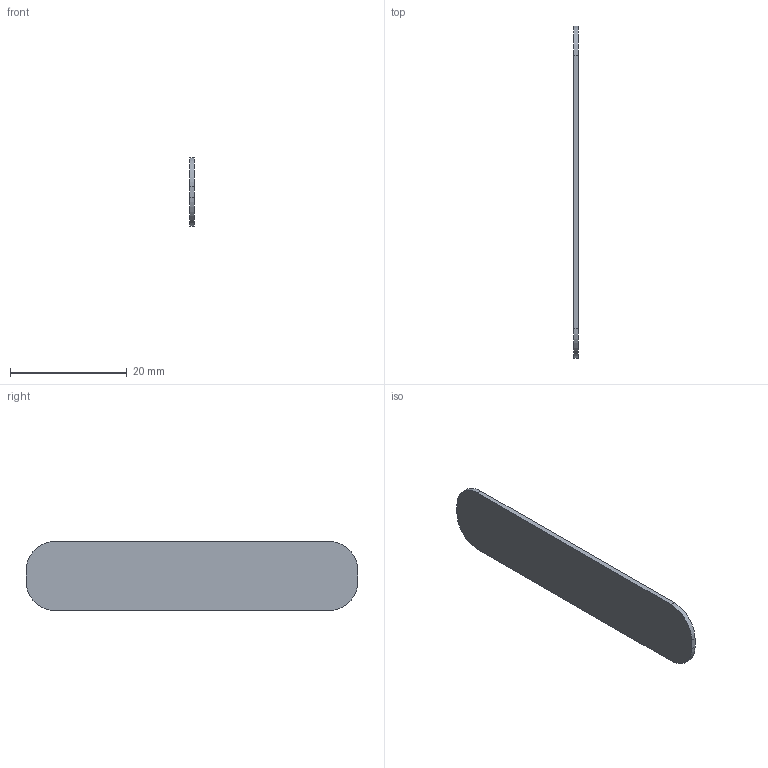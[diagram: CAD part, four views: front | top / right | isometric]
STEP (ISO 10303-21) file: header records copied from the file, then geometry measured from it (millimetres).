
FILE_DESCRIPTION(('Open CASCADE Model'),'2;1');
FILE_NAME('Open CASCADE Shape Model','2026-09-04T20:18:28',('Author'),( 'Open CASCADE'),'Open CASCADE STEP processor 7.7','Open CASCADE 7.7' ,'Unknown');
FILE_SCHEMA(('AUTOMOTIVE_DESIGN { 1 0 10303 214 1 1 1 1 }'));
Length unit declared in the file: millimetre
Products named in the file (1): Open CASCADE STEP translator 7.7 10
Bounding box: 0.8 x 56.8 x 11.8 mm (x, y, z)
Volume: 519 mm3; surface area: 1400.5 mm2
Topology: 1 solids, 1 shells, 10 faces, 24 edges, 16 vertices
Faces by surface type: plane 6, cylinder 4
Entity records: 630 total; most frequent: CARTESIAN_POINT 123, DIRECTION 98, LINE 56, VECTOR 56, ORIENTED_EDGE 48, PCURVE 48, DEFINITIONAL_REPRESENTATION 48, EDGE_CURVE 24
